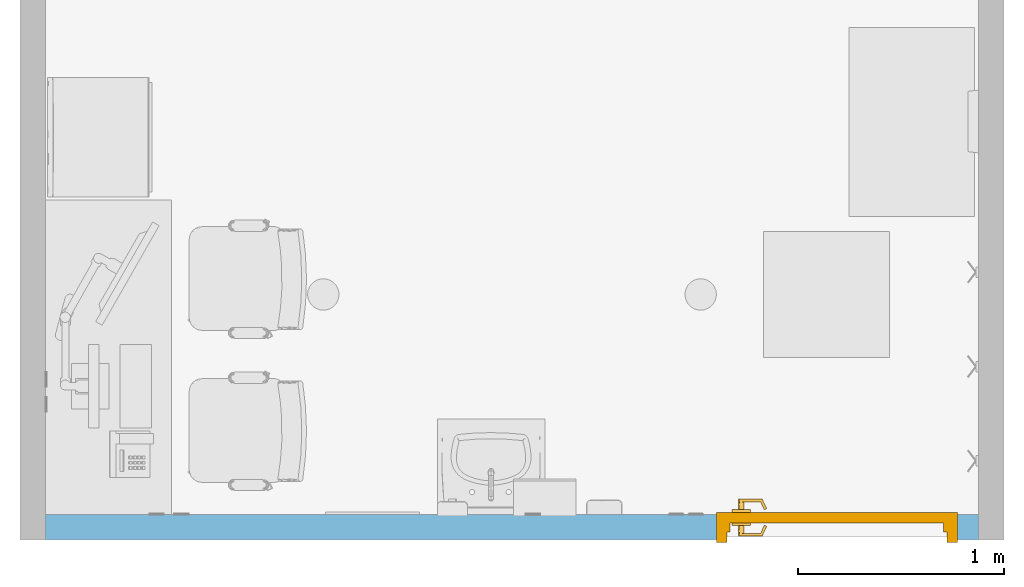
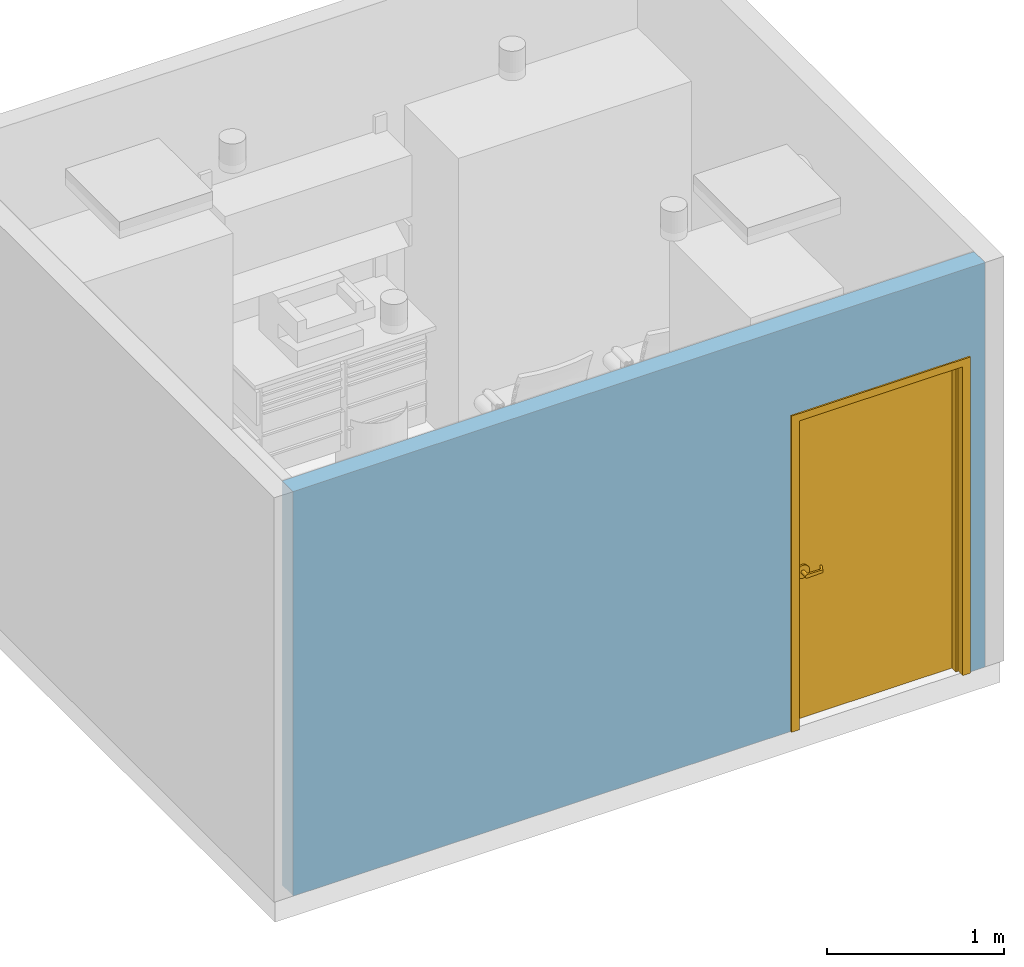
# One storey, part 2 of 15: 1 door, 1 opening, plus 1 element that does not belong to this part.
"""IFC2X3 building model written with IfcOpenShell, lengths in feet."""

import ifcopenshell
import ifcopenshell.guid

model = None  # the IFC model being written
_history = None  # IfcOwnerHistory: only IFC2X3 demands one
_inside = {}  # id of a spatial element -> (the spatial element, [elements in it])
_under = {}  # id of a project, library or spatial element -> (it, [spatial elements below it])
_declared = {}  # id of a project -> (the project, [libraries it declares])
_typed = {}  # id of a type object -> (the type object, [elements of that type])
_made_of = {}  # id of a material, layer set ... -> (it, [elements and type objects made of it])


def new_model(schema):
    """Start an empty IFC model of exactly this schema.

    Asked for "IFC4X3", IfcOpenShell would pick the latest addendum, in which some entities
    have other attributes; the version numbers below select the first issue.
    IFC2X3 requires an IfcOwnerHistory on every rooted entity: one is made here for all.
    """
    global model, _history
    if schema == "IFC4X3":
        model = ifcopenshell.file(schema_version=(4, 3, 0, 0))
    else:
        model = ifcopenshell.file(schema=schema)
    _inside.clear()
    _under.clear()
    _declared.clear()
    _typed.clear()
    _made_of.clear()
    _history = None
    if model.schema == "IFC2X3":
        org = make("IfcOrganization", Name="unknown")
        user = make(
            "IfcPersonAndOrganization",
            ThePerson=make("IfcPerson", FamilyName="unknown"),
            TheOrganization=org,
        )
        app = make(
            "IfcApplication",
            ApplicationDeveloper=org,
            Version="unknown",
            ApplicationFullName="unknown",
            ApplicationIdentifier="unknown",
        )
        _history = make(
            "IfcOwnerHistory",
            OwningUser=user,
            OwningApplication=app,
            ChangeAction="ADDED",
            CreationDate=0,
        )
    return model


def make(cls, **values):
    """One entity of the class cls with the attributes given. An attribute that is None is left unset."""
    return model.create_entity(
        cls, **{name: value for name, value in values.items() if value is not None}
    )


def entity(cls, *values):
    """Any entity or typed value of the class cls, its attributes in the order of the schema. None: left unset."""
    e = model.create_entity(cls)
    for i, value in enumerate(values):
        if value is not None:
            e[i] = value
    return e


def rooted(cls, **values):
    """An entity with a GlobalId (a new one), such as an element, a storey or a relation."""
    return make(cls, GlobalId=ifcopenshell.guid.new(), OwnerHistory=_history, **values)


def si_unit(unit_type, name, prefix=None):
    """IfcSIUnit, for example si_unit("LENGTHUNIT", "METRE", prefix="MILLI")."""
    return make("IfcSIUnit", UnitType=unit_type, Prefix=prefix, Name=name)


def converted_unit(unit_type, name, factor, base, dimensions=None, offset=None):
    """IfcConversionBasedUnit, such as the inch: factor (a typed value) times the base unit."""
    return make(
        "IfcConversionBasedUnit"
        if offset is None
        else "IfcConversionBasedUnitWithOffset",
        ConversionOffset=offset,
        Dimensions=None
        if dimensions is None
        else entity("IfcDimensionalExponents", *dimensions),
        UnitType=unit_type,
        Name=name,
        ConversionFactor=make(
            "IfcMeasureWithUnit", ValueComponent=factor, UnitComponent=base
        ),
    )


def derived_unit(unit_type, elements):
    """IfcDerivedUnit: a product of units, each with its exponent."""
    return make(
        "IfcDerivedUnit",
        Elements=[
            make("IfcDerivedUnitElement", Unit=unit, Exponent=power)
            for unit, power in elements
        ],
        UnitType=unit_type,
    )


def assignment(units):
    """IfcUnitAssignment: the units of a project."""
    return None if units is None else make("IfcUnitAssignment", Units=units)


def point(xyz):
    """IfcCartesianPoint."""
    return None if xyz is None else make("IfcCartesianPoint", Coordinates=xyz)


def direction(xyz):
    """IfcDirection."""
    return None if xyz is None else make("IfcDirection", DirectionRatios=xyz)


def frame(location, z_axis=None, x_axis=None):
    """IfcAxis2Placement3D, a coordinate frame: its origin and axes. An axis left out is left unset."""
    return make(
        "IfcAxis2Placement3D",
        Location=point(location),
        Axis=direction(z_axis),
        RefDirection=direction(x_axis),
    )


def frame_2d(location, x_axis=None):
    """IfcAxis2Placement2D, a coordinate frame in the plane: its origin and x axis."""
    return make(
        "IfcAxis2Placement2D", Location=point(location), RefDirection=direction(x_axis)
    )


def origin():
    """The frame at (0, 0, 0) with its axes left unset."""
    return frame((0.0, 0.0, 0.0))


def place(relative_to, where):
    """IfcLocalPlacement: puts the frame where relative to a parent placement (None: the world)."""
    return make(
        "IfcLocalPlacement", PlacementRelTo=relative_to, RelativePlacement=where
    )


def context(
    kind, dimensions, precision=None, world=None, true_north=None, identifier=None
):
    """IfcGeometricRepresentationContext, for example the 3D "Model" context."""
    return make(
        "IfcGeometricRepresentationContext",
        ContextIdentifier=identifier,
        ContextType=kind,
        CoordinateSpaceDimension=dimensions,
        Precision=precision,
        WorldCoordinateSystem=world,
        TrueNorth=true_north,
    )


def subcontext(parent, identifier, kind, view, scale=None):
    """IfcGeometricRepresentationSubContext, for example "Body" below "Model"."""
    return make(
        "IfcGeometricRepresentationSubContext",
        ContextIdentifier=identifier,
        ContextType=kind,
        ParentContext=parent,
        TargetScale=scale,
        TargetView=view,
    )


def project(units=None, contexts=None):
    """IfcProject with its units and contexts."""
    return rooted(
        "IfcProject",
        Name="project",
        RepresentationContexts=contexts,
        UnitsInContext=assignment(units),
    )


def spatial(cls, under=None, at=None, **own):
    """A site, building, storey or space (cls), placed at a placement, below another one or the project."""
    s = rooted(cls, ObjectPlacement=at, **own)
    if under is not None:
        _under.setdefault(under.id(), (under, []))[1].append(s)
    return s


def profile(cls, at=None, kind="AREA", **sizes):
    """A parametric profile (cls). Its sizes go by their IFC names, for example OverallWidth=200.0."""
    return make(cls, ProfileType=kind, Position=at, **sizes)


def rectangle(**sizes):
    """IfcRectangleProfileDef."""
    return profile("IfcRectangleProfileDef", **sizes)


def extrude(swept, where, along, depth):
    """IfcExtrudedAreaSolid: the profile swept, set in the frame where, extruded along a direction by depth."""
    return make(
        "IfcExtrudedAreaSolid",
        SweptArea=swept,
        Position=where,
        ExtrudedDirection=direction(along),
        Depth=depth,
    )


def faces_of(points, faces, orient=None, outer=None):
    """IfcFace entities. A face is a list of loops; a loop is a list of indices into points, from 0.

    orient and outer hold one flag for each loop. By default every Orientation is true, the
    first loop of a face is its IfcFaceOuterBound and the others are IfcFaceBound.
    """
    made = []
    for i, loops in enumerate(faces):
        bounds = []
        for j, loop in enumerate(loops):
            is_outer = j == 0 if outer is None else outer[i][j]
            bounds.append(
                make(
                    "IfcFaceOuterBound" if is_outer else "IfcFaceBound",
                    Bound=make("IfcPolyLoop", Polygon=[points[k] for k in loop]),
                    Orientation=True if orient is None else orient[i][j],
                )
            )
        made.append(make("IfcFace", Bounds=bounds))
    return made


def faceted_brep(points, faces, orient=None, outer=None, voids=None):
    """IfcFacetedBrep: a solid bounded by flat faces; with voids (closed shells), ...WithVoids."""
    shared = [point(p) for p in points]
    hull = make("IfcClosedShell", CfsFaces=faces_of(shared, faces, orient, outer))
    if voids is None:
        return make("IfcFacetedBrep", Outer=hull)
    return make(
        "IfcFacetedBrepWithVoids",
        Outer=hull,
        Voids=[
            make(cls, CfsFaces=faces_of(shared, fs, o, b)) for cls, fs, o, b in voids
        ],
    )


def shape(context_of_items, identifier, shape_type, items):
    """IfcShapeRepresentation: the items that make up one representation, for example the "Body"."""
    return make(
        "IfcShapeRepresentation",
        ContextOfItems=context_of_items,
        RepresentationIdentifier=identifier,
        RepresentationType=shape_type,
        Items=items,
    )


def source(mapping_origin, context_of_items, identifier, shape_type, items):
    """IfcRepresentationMap: a shape defined once, which mapped items show again and again."""
    return make(
        "IfcRepresentationMap",
        MappingOrigin=mapping_origin,
        MappedRepresentation=shape(context_of_items, identifier, shape_type, items),
    )


def transform(
    local_origin,
    x_axis=None,
    y_axis=None,
    z_axis=None,
    scale=None,
    scale2=None,
    scale3=None,
    uniform=True,
):
    """IfcCartesianTransformationOperator3D, or its non-uniform kind. x_axis, y_axis, z_axis: its Axis1, 2, 3."""
    if uniform:
        return make(
            "IfcCartesianTransformationOperator3D",
            Axis1=direction(x_axis),
            Axis2=direction(y_axis),
            LocalOrigin=point(local_origin),
            Scale=scale,
            Axis3=direction(z_axis),
        )
    return make(
        "IfcCartesianTransformationOperator3DnonUniform",
        Axis1=direction(x_axis),
        Axis2=direction(y_axis),
        LocalOrigin=point(local_origin),
        Scale=scale,
        Axis3=direction(z_axis),
        Scale2=scale2,
        Scale3=scale3,
    )


def mapped(mapping_source, mapping_target):
    """IfcMappedItem: shows the shape of a source again, moved by a transform."""
    return make(
        "IfcMappedItem", MappingSource=mapping_source, MappingTarget=mapping_target
    )


def material(Name=None, Category=None):
    """IfcMaterial."""
    return make("IfcMaterial", Name=Name, Category=Category)


def material_list(materials):
    """IfcMaterialList."""
    return make("IfcMaterialList", Materials=materials)


def layer(
    of_material, thickness, ventilated=None, Name=None, Category=None, Priority=None
):
    """IfcMaterialLayer: one layer of a wall or slab, of a material (None: an air gap)."""
    return make(
        "IfcMaterialLayer",
        Material=of_material,
        LayerThickness=thickness,
        IsVentilated=ventilated,
        Name=Name,
        Category=Category,
        Priority=Priority,
    )


def layer_set(layers, Name=None):
    """IfcMaterialLayerSet."""
    return make("IfcMaterialLayerSet", MaterialLayers=layers, LayerSetName=Name)


def layer_usage(for_layer_set, set_direction, sense, offset, extent=None):
    """IfcMaterialLayerSetUsage: how a layer set lies in its element."""
    return make(
        "IfcMaterialLayerSetUsage",
        ForLayerSet=for_layer_set,
        LayerSetDirection=set_direction,
        DirectionSense=sense,
        OffsetFromReferenceLine=offset,
        ReferenceExtent=extent,
    )


def made_of(thing, what):
    """Note that an element or type object is made of a material, layer set ...; save() writes the relation."""
    if what is not None:
        _made_of.setdefault(what.id(), (what, []))[1].append(thing)
    return thing


def type_object(cls, material=None, **own):
    """A type object (cls), such as IfcWallType, which elements share."""
    return made_of(rooted(cls, **own), material)


def type_shapes(of_type, sources):
    """Give a type object the sources (RepresentationMaps) that its elements show as mapped items."""
    of_type.RepresentationMaps = sources


def element(
    cls,
    number,
    at=None,
    inside=None,
    cuts=None,
    type_object=None,
    material=None,
    context=None,
    identifier="Body",
    shape_type=None,
    held_by="IfcProductDefinitionShape",
    body=None,
    shapes=None,
    **own,
):
    """One element of the class cls, such as IfcWall. Its Tag is "e" and its number.

    at: its placement. inside: the storey or other place that contains it. cuts: it is an
    opening in that element (IfcRelVoidsElement). A single representation is given by context,
    identifier, shape_type and body (its items); several are given by shapes. held_by: the class
    of the entity that holds the representations. save() writes the other relations.
    """
    e = rooted(cls, Tag="e%d" % number, ObjectPlacement=at, **own)
    if body is not None:
        shapes = [shape(context, identifier, shape_type, body)]
    if shapes is not None:
        e.Representation = make(held_by, Representations=shapes)
    if inside is not None:
        _inside.setdefault(inside.id(), (inside, []))[1].append(e)
    if cuts is not None:
        rooted(
            "IfcRelVoidsElement", RelatingBuildingElement=cuts, RelatedOpeningElement=e
        )
    if type_object is not None:
        _typed.setdefault(type_object.id(), (type_object, []))[1].append(e)
    return made_of(e, material)


def fill(opening, filler):
    """IfcRelFillsElement: the door or window that sits in an opening."""
    return rooted(
        "IfcRelFillsElement",
        RelatingOpeningElement=opening,
        RelatedBuildingElement=filler,
    )


def aggregate(whole, parts):
    """IfcRelAggregates: a whole, such as a stair, and the parts it consists of."""
    return rooted("IfcRelAggregates", RelatingObject=whole, RelatedObjects=parts)


def save(model, path):
    """Write the relations noted so far, then the file.

    IfcRelAggregates (storeys below a building ...), IfcRelContainedInSpatialStructure (elements
    in a storey), IfcRelDefinesByType, IfcRelAssociatesMaterial and IfcRelDeclares: one each for
    every whole, place, type object, material and project.
    """
    for whole, parts in _under.values():
        aggregate(whole, parts)
    for where, things in _inside.values():
        rooted(
            "IfcRelContainedInSpatialStructure",
            RelatedElements=things,
            RelatingStructure=where,
        )
    for kind, things in _typed.values():
        rooted("IfcRelDefinesByType", RelatedObjects=things, RelatingType=kind)
    for what, things in _made_of.values():
        rooted("IfcRelAssociatesMaterial", RelatedObjects=things, RelatingMaterial=what)
    for by, libraries in _declared.values():
        rooted("IfcRelDeclares", RelatingContext=by, RelatedDefinitions=libraries)
    model.write(path)


model = new_model("IFC2X3")

# Units and contexts
model_context = context("Model", 3, precision=0.0001, world=origin(), true_north=direction((6.12303176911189e-17, 1.0)))
body_context = subcontext(model_context, "Body", "Model", "MODEL_VIEW")
ifc_project = project(units=[converted_unit("LENGTHUNIT", "FOOT", entity("IfcRatioMeasure", 0.3048), si_unit("LENGTHUNIT", "METRE"), dimensions=[1, 0, 0, 0, 0, 0, 0]), converted_unit("AREAUNIT", "SQUARE FOOT", entity("IfcRatioMeasure", 0.09290304), si_unit("AREAUNIT", "SQUARE_METRE"), dimensions=[2, 0, 0, 0, 0, 0, 0]), converted_unit("VOLUMEUNIT", "CUBIC FOOT", entity("IfcRatioMeasure", 0.028316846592), si_unit("VOLUMEUNIT", "CUBIC_METRE"), dimensions=[3, 0, 0, 0, 0, 0, 0]), converted_unit("PLANEANGLEUNIT", "DEGREE", entity("IfcRatioMeasure", 0.0174532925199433), si_unit("PLANEANGLEUNIT", "RADIAN"), dimensions=[0, 0, 0, 0, 0, 0, 0]), si_unit("MASSUNIT", "GRAM", prefix="KILO"), derived_unit("MASSDENSITYUNIT", [(si_unit("MASSUNIT", "GRAM", prefix="KILO"), 1), (si_unit("LENGTHUNIT", "METRE"), -3)]), si_unit("TIMEUNIT", "SECOND"), si_unit("FREQUENCYUNIT", "HERTZ"), si_unit("THERMODYNAMICTEMPERATUREUNIT", "DEGREE_CELSIUS"), derived_unit("THERMALTRANSMITTANCEUNIT", [(si_unit("MASSUNIT", "GRAM", prefix="KILO"), 1), (si_unit("THERMODYNAMICTEMPERATUREUNIT", "KELVIN"), -1), (si_unit("TIMEUNIT", "SECOND"), -3)]), derived_unit("VOLUMETRICFLOWRATEUNIT", [(si_unit("LENGTHUNIT", "METRE"), 3), (si_unit("TIMEUNIT", "SECOND"), -1)]), si_unit("ELECTRICCURRENTUNIT", "AMPERE"), si_unit("ELECTRICVOLTAGEUNIT", "VOLT"), si_unit("POWERUNIT", "WATT"), si_unit("FORCEUNIT", "NEWTON"), si_unit("ILLUMINANCEUNIT", "LUX"), si_unit("LUMINOUSFLUXUNIT", "LUMEN"), si_unit("LUMINOUSINTENSITYUNIT", "CANDELA"), derived_unit("USERDEFINED", [(si_unit("MASSUNIT", "GRAM", prefix="KILO"), -1), (si_unit("LENGTHUNIT", "METRE"), -2), (si_unit("TIMEUNIT", "SECOND"), 3), (si_unit("LUMINOUSFLUXUNIT", "LUMEN"), 1)]), derived_unit("LINEARVELOCITYUNIT", [(si_unit("LENGTHUNIT", "METRE"), 1), (si_unit("TIMEUNIT", "SECOND"), -1)]), si_unit("PRESSUREUNIT", "PASCAL"), derived_unit("USERDEFINED", [(si_unit("LENGTHUNIT", "METRE"), -2), (si_unit("MASSUNIT", "GRAM", prefix="KILO"), 1), (si_unit("TIMEUNIT", "SECOND"), -2)])], contexts=[model_context])

# Site, building, storey
site_placement = place(None, origin())
site = spatial("IfcSite", under=ifc_project, at=site_placement, Name="Default", CompositionType="ELEMENT")
building_placement = place(site_placement, origin())
building = spatial("IfcBuilding", under=site, at=building_placement, Name="EYE CLINIC:  OPTHALMOLOGY AND OPTOMETRY SERVICES (Ch. 233)", CompositionType="ELEMENT")
storey_placement = place(building_placement, origin())
storey = spatial("IfcBuildingStorey", under=building, at=storey_placement, Name="DATUM", CompositionType="ELEMENT", Elevation=0.0)

# Wall, opening, door
ifc_material_1 = material(Name="Default Wall")
ifc_layer = layer(ifc_material_1, 0.40625)
ifc_layer_set = layer_set([ifc_layer], Name="Basic Wall:Interior - 4 7/8\"")
ifc_layer_usage = layer_usage(ifc_layer_set, "AXIS2", "NEGATIVE", 0.203125)
wall_type = type_object("IfcWallType", Name="Basic Wall:Interior - 4 7/8\"", PredefinedType="STANDARD", material=ifc_layer_set)
wall_placement = place(storey_placement, frame((349.639769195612, -1.3954993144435, 0.0), z_axis=(0.0, 0.0, 1.0), x_axis=(-1.0, 0.0, 0.0)))
wall = element("IfcWallStandardCase", 1, at=wall_placement, inside=storey, type_object=wall_type, material=ifc_layer_usage, Name="Basic Wall:Interior - 4 7/8\"", ObjectType="Basic Wall:Interior - 4 7/8\"", context=body_context, shape_type="SweptSolid", body=[
    extrude(rectangle(XDim=14.8333333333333, YDim=0.40625, at=frame_2d((7.41666666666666, -4.16333634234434e-17), x_axis=(-1.0, 0.0))), origin(), (0.0, 0.0, 1.0), 9.16666666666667),
])
opening_placement = place(wall_placement, frame((4.16666666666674, 0.203124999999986, 0.0)))
opening = element("IfcOpeningElement", 2, at=opening_placement, cuts=wall, Name="Single - Flush:42\" x 84\":1", ObjectType="Opening", context=body_context, shape_type="SweptSolid", body=[
    extrude(rectangle(XDim=3.83333333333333, YDim=7.16666666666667, at=frame_2d((3.58333333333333, 1.91666666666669), x_axis=(0.0, 1.0))), frame((0.0, 0.0, 0.0), z_axis=(0.0, -1.0, 0.0), x_axis=(0.0, 0.0, 1.0)), (0.0, 0.0, 1.0), 0.40625),
])
ifc_material_2 = material(Name="Door - Hardware")
ifc_material_3 = material(Name="Door - Wood Panel")
ifc_material_4 = material(Name="Door - H.M. Frame")
ifc_material_list_1 = material_list([ifc_material_2, ifc_material_3, ifc_material_4])
ifc_material_list_2 = material_list([ifc_material_2, ifc_material_3, ifc_material_4])
door_style = type_object("IfcDoorStyle", Name="42\" x 84\"", ConstructionType="NOTDEFINED", OperationType="NOTDEFINED", ParameterTakesPrecedence=False, Sizeable=False, material=ifc_material_list_2)
shared_shape = source(origin(), body_context, "Body", "Brep", [
    faceted_brep([(0.761840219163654, 0.236368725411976, 3.3541666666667), (0.761840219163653, 0.236368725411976, 3.31250000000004), (0.709012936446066, 0.123080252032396, 3.30208333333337), (0.702622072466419, 0.109375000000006, 3.30208333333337), (0.702622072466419, 0.109375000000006, 3.36458333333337), (0.709012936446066, 0.123080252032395, 3.36458333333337), (0.799603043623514, 0.218759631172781, 3.3541666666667), (0.746775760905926, 0.1054711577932, 3.36458333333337), (0.729166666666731, 0.0677083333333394, 3.36458333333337), (0.72916666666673, 0.0677083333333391, 3.30208333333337), (0.746775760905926, 0.1054711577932, 3.30208333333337), (0.799603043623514, 0.218759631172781, 3.31250000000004), (0.72916666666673, 0.109375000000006, 3.30208333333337), (0.729166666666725, 0.109375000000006, 3.36458333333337), (0.397137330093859, 0.0677083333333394, 3.29168707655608), (0.397137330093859, 0.0677083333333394, 3.37497959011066), (0.38693671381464, 0.0677083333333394, 3.37403912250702), (0.377273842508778, 0.0677083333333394, 3.37063824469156), (0.368732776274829, 0.0677083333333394, 3.36498251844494), (0.361829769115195, 0.0677083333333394, 3.35741379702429), (0.356982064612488, 0.0677083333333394, 3.34838956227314), (0.354482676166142, 0.0677083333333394, 3.33845527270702), (0.354482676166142, 0.0677083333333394, 3.32821139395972), (0.356982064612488, 0.0677083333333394, 3.31827710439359), (0.361829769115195, 0.0677083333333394, 3.30925286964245), (0.368732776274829, 0.0677083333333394, 3.3016841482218), (0.377273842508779, 0.0677083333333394, 3.29602842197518), (0.38693671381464, 0.0677083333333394, 3.29262754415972), (0.397137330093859, 0.109375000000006, 3.29168707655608), (0.407663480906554, 0.109375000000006, 3.29338137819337), (0.417415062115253, 0.109375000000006, 3.29769150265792), (0.425753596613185, 0.109375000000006, 3.30433524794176), (0.432133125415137, 0.109375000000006, 3.31287762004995), (0.436135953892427, 0.109375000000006, 3.32275931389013), (0.437500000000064, 0.109375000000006, 3.33333333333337), (0.436135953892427, 0.109375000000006, 3.34390735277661), (0.432133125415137, 0.109375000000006, 3.35378904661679), (0.425753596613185, 0.109375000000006, 3.36233141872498), (0.417415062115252, 0.109375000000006, 3.36897516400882), (0.407663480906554, 0.109375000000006, 3.37328528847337), (0.397137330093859, 0.109375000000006, 3.37497959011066), (0.387651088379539, 0.109375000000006, 3.29247795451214), (0.378594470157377, 0.109375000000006, 3.2954000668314), (0.363605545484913, 0.109375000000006, 3.30692347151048), (0.370437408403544, 0.109375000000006, 3.30030065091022), (0.358454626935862, 0.109375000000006, 3.31492291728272), (0.355252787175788, 0.109375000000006, 3.32388185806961), (0.35416666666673, 0.109375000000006, 3.33333333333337), (0.355252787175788, 0.109375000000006, 3.34278480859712), (0.358454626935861, 0.109375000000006, 3.35174374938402), (0.370437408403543, 0.109375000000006, 3.36636601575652), (0.363605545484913, 0.109375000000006, 3.35974319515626), (0.378594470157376, 0.109375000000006, 3.37126659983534), (0.387651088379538, 0.109375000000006, 3.3741887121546), (0.35416666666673, 0.234375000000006, 3.33333333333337), (0.355586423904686, 0.234375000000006, 3.34411746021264), (0.359748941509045, 0.234375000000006, 3.3541666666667), (0.375000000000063, 0.234375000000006, 3.36941772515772), (0.366370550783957, 0.234375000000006, 3.36279611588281), (0.385049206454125, 0.234375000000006, 3.37358024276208), (0.395833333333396, 0.234375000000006, 3.37500000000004), (0.406617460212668, 0.234375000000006, 3.37358024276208), (0.41666666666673, 0.234375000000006, 3.36941772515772), (0.431917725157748, 0.234375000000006, 3.3541666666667), (0.425296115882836, 0.234375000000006, 3.36279611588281), (0.436080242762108, 0.234375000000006, 3.34411746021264), (0.437500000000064, 0.234375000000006, 3.33333333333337), (0.436080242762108, 0.234375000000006, 3.3225492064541), (0.431917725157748, 0.234375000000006, 3.31250000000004), (0.41666666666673, 0.234375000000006, 3.29724894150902), (0.425296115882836, 0.234375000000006, 3.30387055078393), (0.406617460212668, 0.234375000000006, 3.29308642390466), (0.395833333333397, 0.234375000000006, 3.2916666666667), (0.385049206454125, 0.234375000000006, 3.29308642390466), (0.375000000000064, 0.234375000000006, 3.29724894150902), (0.359748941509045, 0.234375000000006, 3.31250000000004), (0.366370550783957, 0.234375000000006, 3.30387055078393), (0.355586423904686, 0.234375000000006, 3.3225492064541), (0.468750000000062, 0.234375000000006, 3.4596287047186), (0.498953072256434, 0.234375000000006, 3.43645307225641), (0.433577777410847, 0.234375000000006, 3.47419751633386), (0.395833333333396, 0.234375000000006, 3.4791666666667), (0.358088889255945, 0.234375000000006, 3.47419751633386), (0.322916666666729, 0.234375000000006, 3.4596287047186), (0.292713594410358, 0.234375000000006, 3.43645307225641), (0.269537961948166, 0.234375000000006, 3.40625000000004), (0.254969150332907, 0.234375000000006, 3.37107777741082), (0.250000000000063, 0.234375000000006, 3.33333333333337), (0.254969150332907, 0.234375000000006, 3.29558888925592), (0.269537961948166, 0.234375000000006, 3.2604166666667), (0.292713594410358, 0.234375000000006, 3.23021359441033), (0.32291666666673, 0.234375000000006, 3.20703796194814), (0.358088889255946, 0.234375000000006, 3.19246915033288), (0.395833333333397, 0.234375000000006, 3.18750000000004), (0.433577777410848, 0.234375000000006, 3.19246915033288), (0.468750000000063, 0.234375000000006, 3.20703796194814), (0.498953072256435, 0.234375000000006, 3.23021359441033), (0.522128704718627, 0.234375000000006, 3.2604166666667), (0.536697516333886, 0.234375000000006, 3.29558888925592), (0.54166666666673, 0.234375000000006, 3.33333333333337), (0.536697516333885, 0.234375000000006, 3.37107777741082), (0.522128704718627, 0.234375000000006, 3.40625000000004), (0.433577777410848, 0.276041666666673, 3.19246915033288), (0.395833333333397, 0.276041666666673, 3.18750000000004), (0.358088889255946, 0.276041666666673, 3.19246915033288), (0.32291666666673, 0.276041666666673, 3.20703796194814), (0.292713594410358, 0.276041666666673, 3.23021359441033), (0.269537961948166, 0.276041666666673, 3.2604166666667), (0.254969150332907, 0.276041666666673, 3.29558888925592), (0.250000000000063, 0.276041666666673, 3.33333333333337), (0.254969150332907, 0.276041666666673, 3.37107777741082), (0.269537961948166, 0.276041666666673, 3.40625000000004), (0.292713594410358, 0.276041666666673, 3.43645307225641), (0.322916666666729, 0.276041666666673, 3.4596287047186), (0.358088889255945, 0.276041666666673, 3.47419751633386), (0.395833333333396, 0.276041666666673, 3.4791666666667), (0.433577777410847, 0.276041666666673, 3.47419751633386), (0.468750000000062, 0.276041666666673, 3.4596287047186), (0.498953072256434, 0.276041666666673, 3.43645307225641), (0.522128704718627, 0.276041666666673, 3.40625000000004), (0.536697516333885, 0.276041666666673, 3.37107777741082), (0.54166666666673, 0.276041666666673, 3.33333333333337), (0.536697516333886, 0.276041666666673, 3.29558888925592), (0.522128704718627, 0.276041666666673, 3.2604166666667), (0.498953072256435, 0.276041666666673, 3.23021359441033), (0.468750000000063, 0.276041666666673, 3.20703796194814)], [[[0, 1, 2, 3, 4, 5]], [[6, 7, 8, 9, 10, 11]], [[12, 3, 2, 10, 9]], [[11, 10, 2, 1]], [[11, 1, 0, 6]], [[7, 6, 0, 5]], [[13, 8, 7, 5, 4]], [[14, 9, 8, 15, 16, 17, 18, 19, 20, 21, 22, 23, 24, 25, 26, 27]], [[3, 12, 28, 29, 30, 31, 32, 33, 34, 35, 36, 37, 38, 39, 40, 13, 4]], [[28, 12, 9, 14]], [[28, 14, 41]], [[41, 27, 42]], [[43, 44, 25]], [[24, 45, 43]], [[26, 44, 42]], [[45, 23, 46]], [[27, 26, 42]], [[41, 14, 27]], [[45, 24, 23]], [[24, 43, 25]], [[44, 26, 25]], [[46, 23, 22]], [[22, 47, 46]], [[47, 21, 48]], [[48, 20, 49]], [[50, 51, 18]], [[17, 52, 50]], [[19, 51, 49]], [[52, 16, 53]], [[51, 19, 18]], [[49, 20, 19]], [[48, 21, 20]], [[53, 16, 15]], [[16, 52, 17]], [[50, 18, 17]], [[40, 53, 15]], [[22, 21, 47]], [[40, 15, 8, 13]], [[54, 48, 55]], [[55, 49, 56]], [[57, 58, 50]], [[51, 58, 56]], [[59, 57, 52]], [[48, 49, 55]], [[54, 47, 48]], [[57, 50, 52]], [[50, 58, 51]], [[56, 49, 51]], [[59, 52, 53]], [[53, 60, 59]], [[60, 40, 61]], [[61, 39, 62]], [[63, 64, 37]], [[36, 65, 63]], [[38, 64, 62]], [[65, 35, 66]], [[39, 38, 62]], [[61, 40, 39]], [[65, 36, 35]], [[36, 63, 37]], [[64, 38, 37]], [[66, 35, 34]], [[53, 40, 60]], [[66, 33, 67]], [[67, 32, 68]], [[69, 70, 30]], [[31, 70, 68]], [[71, 69, 29]], [[33, 32, 67]], [[66, 34, 33]], [[69, 30, 29]], [[30, 70, 31]], [[68, 32, 31]], [[71, 29, 28]], [[28, 72, 71]], [[72, 41, 73]], [[73, 42, 74]], [[75, 76, 43]], [[45, 77, 75]], [[44, 76, 74]], [[77, 46, 54]], [[42, 44, 74]], [[73, 41, 42]], [[77, 45, 46]], [[45, 75, 43]], [[76, 44, 43]], [[54, 46, 47]], [[28, 41, 72]], [[78, 61, 62]], [[78, 62, 79]], [[78, 80, 61]], [[60, 61, 80]], [[81, 60, 80]], [[60, 81, 59]], [[82, 59, 81]], [[82, 57, 59]], [[57, 82, 83]], [[57, 83, 58]], [[84, 58, 83]], [[58, 84, 56]], [[56, 84, 85]], [[56, 85, 55]], [[55, 85, 86]], [[54, 55, 86]], [[87, 54, 86]], [[77, 54, 87]], [[88, 77, 87]], [[75, 77, 88]], [[89, 75, 88]], [[75, 89, 90]], [[76, 75, 90]], [[90, 91, 76]], [[91, 74, 76]], [[74, 91, 92]], [[74, 92, 73]], [[92, 93, 73]], [[72, 73, 93]], [[93, 94, 72]], [[72, 94, 71]], [[95, 71, 94]], [[71, 95, 69]], [[69, 95, 96]], [[70, 69, 96]], [[97, 70, 96]], [[68, 70, 97]], [[98, 68, 97]], [[68, 98, 67]], [[67, 98, 99]], [[99, 66, 67]], [[99, 100, 66]], [[65, 66, 100]], [[101, 65, 100]], [[64, 101, 79]], [[101, 63, 65]], [[63, 101, 64]], [[64, 79, 62]], [[102, 103, 104, 105, 106, 107, 108, 109, 110, 111, 112, 113, 114, 115, 116, 117, 118, 119, 120, 121, 122, 123, 124, 125]], [[109, 87, 86, 110]], [[110, 86, 85, 111]], [[113, 112, 84, 83]], [[84, 112, 111, 85]], [[114, 113, 83, 82]], [[114, 82, 81, 115]], [[115, 81, 80, 116]], [[116, 80, 78, 117]], [[119, 118, 79, 101]], [[79, 118, 117, 78]], [[120, 119, 101, 100]], [[120, 100, 99, 121]], [[121, 99, 98, 122]], [[122, 98, 97, 123]], [[125, 124, 96, 95]], [[96, 124, 123, 97]], [[102, 125, 95, 94]], [[102, 94, 93, 103]], [[103, 93, 92, 104]], [[104, 92, 91, 105]], [[107, 106, 90, 89]], [[90, 106, 105, 91]], [[108, 107, 89, 88]], [[108, 88, 87, 109]]]),
    faceted_brep([(0.761840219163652, 0.482381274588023, 3.31249999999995), (0.761840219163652, 0.482381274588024, 3.35416666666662), (0.709012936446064, 0.595669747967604, 3.36458333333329), (0.702622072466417, 0.609374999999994, 3.36458333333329), (0.702622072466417, 0.609374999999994, 3.30208333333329), (0.709012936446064, 0.595669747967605, 3.30208333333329), (0.799603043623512, 0.499990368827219, 3.31249999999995), (0.746775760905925, 0.6132788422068, 3.30208333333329), (0.729166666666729, 0.651041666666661, 3.30208333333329), (0.729166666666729, 0.651041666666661, 3.36458333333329), (0.746775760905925, 0.6132788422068, 3.36458333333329), (0.799603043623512, 0.499990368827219, 3.35416666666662), (0.729166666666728, 0.609374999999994, 3.36458333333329), (0.729166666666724, 0.609374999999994, 3.30208333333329), (0.397137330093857, 0.651041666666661, 3.37497959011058), (0.397137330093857, 0.651041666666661, 3.291687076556), (0.386936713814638, 0.651041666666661, 3.29262754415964), (0.377273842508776, 0.651041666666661, 3.2960284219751), (0.368732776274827, 0.651041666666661, 3.30168414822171), (0.361829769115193, 0.651041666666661, 3.30925286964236), (0.356982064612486, 0.651041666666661, 3.31827710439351), (0.35448267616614, 0.651041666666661, 3.32821139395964), (0.35448267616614, 0.651041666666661, 3.33845527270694), (0.356982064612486, 0.651041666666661, 3.34838956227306), (0.361829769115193, 0.651041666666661, 3.35741379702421), (0.368732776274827, 0.651041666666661, 3.36498251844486), (0.377273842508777, 0.651041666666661, 3.37063824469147), (0.386936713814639, 0.651041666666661, 3.37403912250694), (0.397137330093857, 0.609374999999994, 3.37497959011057), (0.407663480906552, 0.609374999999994, 3.37328528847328), (0.417415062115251, 0.609374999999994, 3.36897516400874), (0.425753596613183, 0.609374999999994, 3.3623314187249), (0.432133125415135, 0.609374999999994, 3.35378904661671), (0.436135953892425, 0.609374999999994, 3.34390735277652), (0.437500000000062, 0.609374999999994, 3.33333333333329), (0.436135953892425, 0.609374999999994, 3.32275931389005), (0.432133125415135, 0.609374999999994, 3.31287762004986), (0.425753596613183, 0.609374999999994, 3.30433524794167), (0.417415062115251, 0.609374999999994, 3.29769150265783), (0.407663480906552, 0.609374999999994, 3.29338137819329), (0.397137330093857, 0.609374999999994, 3.291687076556), (0.387651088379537, 0.609374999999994, 3.37418871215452), (0.378594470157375, 0.609374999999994, 3.37126659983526), (0.363605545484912, 0.609374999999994, 3.35974319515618), (0.370437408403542, 0.609374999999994, 3.36636601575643), (0.35845462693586, 0.609374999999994, 3.35174374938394), (0.355252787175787, 0.609374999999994, 3.34278480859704), (0.354166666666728, 0.609374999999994, 3.33333333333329), (0.355252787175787, 0.609374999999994, 3.32388185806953), (0.35845462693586, 0.609374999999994, 3.31492291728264), (0.370437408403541, 0.609374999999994, 3.30030065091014), (0.363605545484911, 0.609374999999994, 3.30692347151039), (0.378594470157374, 0.609374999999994, 3.29540006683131), (0.387651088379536, 0.609374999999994, 3.29247795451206), (0.354166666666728, 0.484374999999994, 3.33333333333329), (0.355586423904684, 0.484374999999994, 3.32254920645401), (0.359748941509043, 0.484374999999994, 3.31249999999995), (0.375000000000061, 0.484374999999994, 3.29724894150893), (0.366370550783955, 0.484374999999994, 3.30387055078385), (0.385049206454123, 0.484374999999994, 3.29308642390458), (0.395833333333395, 0.484374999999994, 3.29166666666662), (0.406617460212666, 0.484374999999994, 3.29308642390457), (0.416666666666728, 0.484374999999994, 3.29724894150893), (0.431917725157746, 0.484374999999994, 3.31249999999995), (0.425296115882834, 0.484374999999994, 3.30387055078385), (0.436080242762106, 0.484374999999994, 3.32254920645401), (0.437500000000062, 0.484374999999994, 3.33333333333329), (0.436080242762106, 0.484374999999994, 3.34411746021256), (0.431917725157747, 0.484374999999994, 3.35416666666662), (0.416666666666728, 0.484374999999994, 3.36941772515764), (0.425296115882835, 0.484374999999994, 3.36279611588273), (0.406617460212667, 0.484374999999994, 3.373580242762), (0.395833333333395, 0.484374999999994, 3.37499999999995), (0.385049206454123, 0.484374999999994, 3.373580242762), (0.375000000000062, 0.484374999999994, 3.36941772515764), (0.359748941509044, 0.484374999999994, 3.35416666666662), (0.366370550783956, 0.484374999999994, 3.36279611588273), (0.355586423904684, 0.484374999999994, 3.34411746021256), (0.468750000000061, 0.484374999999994, 3.20703796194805), (0.498953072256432, 0.484374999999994, 3.23021359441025), (0.433577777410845, 0.484374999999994, 3.1924691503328), (0.395833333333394, 0.484374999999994, 3.18749999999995), (0.358088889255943, 0.484374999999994, 3.1924691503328), (0.322916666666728, 0.484374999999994, 3.20703796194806), (0.292713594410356, 0.484374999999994, 3.23021359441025), (0.269537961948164, 0.484374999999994, 3.26041666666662), (0.254969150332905, 0.484374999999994, 3.29558888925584), (0.250000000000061, 0.484374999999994, 3.33333333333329), (0.254969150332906, 0.484374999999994, 3.37107777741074), (0.269537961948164, 0.484374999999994, 3.40624999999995), (0.292713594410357, 0.484374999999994, 3.43645307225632), (0.322916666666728, 0.484374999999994, 3.45962870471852), (0.358088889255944, 0.484374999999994, 3.47419751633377), (0.395833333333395, 0.484374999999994, 3.47916666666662), (0.433577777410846, 0.484374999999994, 3.47419751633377), (0.468750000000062, 0.484374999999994, 3.45962870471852), (0.498953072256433, 0.484374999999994, 3.43645307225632), (0.522128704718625, 0.484374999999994, 3.40624999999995), (0.536697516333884, 0.484374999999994, 3.37107777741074), (0.541666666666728, 0.484374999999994, 3.33333333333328), (0.536697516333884, 0.484374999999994, 3.29558888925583), (0.522128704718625, 0.484374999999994, 3.26041666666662), (0.433577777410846, 0.442708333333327, 3.47419751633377), (0.395833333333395, 0.442708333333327, 3.47916666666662), (0.358088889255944, 0.442708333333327, 3.47419751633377), (0.322916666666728, 0.442708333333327, 3.45962870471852), (0.292713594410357, 0.442708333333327, 3.43645307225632), (0.269537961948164, 0.442708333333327, 3.40624999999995), (0.254969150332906, 0.442708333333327, 3.37107777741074), (0.250000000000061, 0.442708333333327, 3.33333333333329), (0.254969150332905, 0.442708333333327, 3.29558888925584), (0.269537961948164, 0.442708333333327, 3.26041666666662), (0.292713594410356, 0.442708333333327, 3.23021359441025), (0.322916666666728, 0.442708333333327, 3.20703796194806), (0.358088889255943, 0.442708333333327, 3.1924691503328), (0.395833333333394, 0.442708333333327, 3.18749999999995), (0.433577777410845, 0.442708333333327, 3.1924691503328), (0.468750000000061, 0.442708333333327, 3.20703796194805), (0.498953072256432, 0.442708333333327, 3.23021359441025), (0.522128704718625, 0.442708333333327, 3.26041666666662), (0.536697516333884, 0.442708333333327, 3.29558888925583), (0.541666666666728, 0.442708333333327, 3.33333333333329), (0.536697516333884, 0.442708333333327, 3.37107777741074), (0.522128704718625, 0.442708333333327, 3.40624999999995), (0.498953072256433, 0.442708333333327, 3.43645307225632), (0.468750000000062, 0.442708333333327, 3.45962870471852)], [[[0, 1, 2, 3, 4, 5]], [[6, 7, 8, 9, 10, 11]], [[12, 3, 2, 10, 9]], [[11, 10, 2, 1]], [[11, 1, 0, 6]], [[7, 6, 0, 5]], [[13, 8, 7, 5, 4]], [[14, 9, 8, 15, 16, 17, 18, 19, 20, 21, 22, 23, 24, 25, 26, 27]], [[3, 12, 28, 29, 30, 31, 32, 33, 34, 35, 36, 37, 38, 39, 40, 13, 4]], [[28, 12, 9, 14]], [[28, 14, 41]], [[41, 27, 42]], [[43, 44, 25]], [[24, 45, 43]], [[26, 44, 42]], [[45, 23, 46]], [[27, 26, 42]], [[41, 14, 27]], [[45, 24, 23]], [[24, 43, 25]], [[44, 26, 25]], [[46, 23, 22]], [[22, 47, 46]], [[47, 21, 48]], [[48, 20, 49]], [[50, 51, 18]], [[17, 52, 50]], [[19, 51, 49]], [[52, 16, 53]], [[51, 19, 18]], [[49, 20, 19]], [[48, 21, 20]], [[53, 16, 15]], [[16, 52, 17]], [[50, 18, 17]], [[40, 53, 15]], [[22, 21, 47]], [[40, 15, 8, 13]], [[54, 48, 55]], [[55, 49, 56]], [[57, 58, 50]], [[51, 58, 56]], [[59, 57, 52]], [[48, 49, 55]], [[54, 47, 48]], [[57, 50, 52]], [[50, 58, 51]], [[56, 49, 51]], [[59, 52, 53]], [[53, 60, 59]], [[60, 40, 61]], [[61, 39, 62]], [[63, 64, 37]], [[36, 65, 63]], [[38, 64, 62]], [[65, 35, 66]], [[39, 38, 62]], [[61, 40, 39]], [[65, 36, 35]], [[36, 63, 37]], [[64, 38, 37]], [[66, 35, 34]], [[53, 40, 60]], [[66, 33, 67]], [[67, 32, 68]], [[69, 70, 30]], [[31, 70, 68]], [[71, 69, 29]], [[33, 32, 67]], [[66, 34, 33]], [[69, 30, 29]], [[30, 70, 31]], [[68, 32, 31]], [[71, 29, 28]], [[28, 72, 71]], [[72, 41, 73]], [[73, 42, 74]], [[75, 76, 43]], [[45, 77, 75]], [[44, 76, 74]], [[77, 46, 54]], [[42, 44, 74]], [[73, 41, 42]], [[77, 45, 46]], [[45, 75, 43]], [[76, 44, 43]], [[54, 46, 47]], [[28, 41, 72]], [[78, 61, 62]], [[78, 62, 79]], [[78, 80, 61]], [[60, 61, 80]], [[81, 60, 80]], [[60, 81, 59]], [[82, 59, 81]], [[82, 57, 59]], [[57, 82, 83]], [[57, 83, 58]], [[84, 58, 83]], [[58, 84, 56]], [[56, 84, 85]], [[56, 85, 55]], [[55, 85, 86]], [[54, 55, 86]], [[87, 54, 86]], [[77, 54, 87]], [[88, 77, 87]], [[75, 77, 88]], [[89, 75, 88]], [[75, 89, 90]], [[76, 75, 90]], [[90, 91, 76]], [[91, 74, 76]], [[74, 91, 92]], [[74, 92, 73]], [[92, 93, 73]], [[72, 73, 93]], [[93, 94, 72]], [[72, 94, 71]], [[95, 71, 94]], [[71, 95, 69]], [[69, 95, 96]], [[70, 69, 96]], [[97, 70, 96]], [[68, 70, 97]], [[98, 68, 97]], [[68, 98, 67]], [[67, 98, 99]], [[99, 66, 67]], [[99, 100, 66]], [[65, 66, 100]], [[101, 65, 100]], [[64, 101, 79]], [[101, 63, 65]], [[63, 101, 64]], [[64, 79, 62]], [[102, 103, 104, 105, 106, 107, 108, 109, 110, 111, 112, 113, 114, 115, 116, 117, 118, 119, 120, 121, 122, 123, 124, 125]], [[109, 87, 86, 110]], [[110, 86, 85, 111]], [[113, 112, 84, 83]], [[84, 112, 111, 85]], [[114, 113, 83, 82]], [[114, 82, 81, 115]], [[115, 81, 80, 116]], [[116, 80, 78, 117]], [[119, 118, 79, 101]], [[79, 118, 117, 78]], [[120, 119, 101, 100]], [[120, 100, 99, 121]], [[121, 99, 98, 122]], [[122, 98, 97, 123]], [[125, 124, 96, 95]], [[96, 124, 123, 97]], [[102, 125, 95, 94]], [[102, 94, 93, 103]], [[103, 93, 92, 104]], [[104, 92, 91, 105]], [[107, 106, 90, 89]], [[90, 106, 105, 91]], [[108, 107, 89, 88]], [[108, 88, 87, 109]]]),
    faceted_brep([(3.66666666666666, 0.442708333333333, 7.0), (3.66666666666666, 0.442708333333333, 0.0), (0.166666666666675, 0.442708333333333, 0.0), (0.166666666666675, 0.442708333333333, 7.0), (3.66666666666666, 0.276041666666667, 7.0), (0.166666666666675, 0.276041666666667, 7.0), (0.166666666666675, 0.276041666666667, 0.0), (3.66666666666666, 0.276041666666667, 0.0)], [[[0, 1, 2, 3]], [[4, 5, 6, 7]], [[3, 5, 4, 0]], [[2, 6, 5, 3]], [[1, 7, 6, 2]], [[0, 4, 7, 1]]]),
    faceted_brep([(3.66666666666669, 0.442708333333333, 0.0), (3.83333333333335, 0.442708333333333, 0.0), (3.83333333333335, -0.0364583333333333, 0.0), (3.66666666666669, -0.0364583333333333, 0.0), (3.66666666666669, 0.130208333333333, 0.0), (3.61458333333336, 0.130208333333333, 0.0), (3.61458333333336, 0.276041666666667, 0.0), (3.66666666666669, 0.276041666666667, 0.0), (3.66666666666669, 0.276041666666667, 7.0), (3.66666666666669, 0.442708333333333, 7.0), (3.61458333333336, 0.276041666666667, 6.94791666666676), (0.218749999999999, 0.276041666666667, 6.94791666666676), (0.218749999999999, 0.276041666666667, 0.0), (0.166666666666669, 0.276041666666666, 0.0), (0.166666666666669, 0.276041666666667, 7.0), (3.61458333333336, 0.130208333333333, 6.94791666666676), (3.66666666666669, 0.130208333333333, 7.0), (0.166666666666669, 0.130208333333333, 7.0), (0.166666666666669, 0.130208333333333, 0.0), (0.218749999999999, 0.130208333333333, 0.0), (0.218749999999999, 0.130208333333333, 6.94791666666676), (3.66666666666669, -0.0364583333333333, 7.0), (3.83333333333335, -0.0364583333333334, 7.16666666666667), (0.0, -0.0364583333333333, 7.16666666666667), (0.0, -0.0364583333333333, 0.0), (0.166666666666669, -0.0364583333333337, 0.0), (0.166666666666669, -0.0364583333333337, 7.0), (3.83333333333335, 0.442708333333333, 7.16666666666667), (0.166666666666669, 0.442708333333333, 7.0), (0.166666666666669, 0.442708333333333, 0.0), (0.0, 0.442708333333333, 0.0), (0.0, 0.442708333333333, 7.16666666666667)], [[[0, 1, 2, 3, 4, 5, 6, 7]], [[7, 8, 9, 0]], [[6, 10, 11, 12, 13, 14, 8, 7]], [[5, 15, 10, 6]], [[4, 16, 17, 18, 19, 20, 15, 5]], [[3, 21, 16, 4]], [[2, 22, 23, 24, 25, 26, 21, 3]], [[1, 27, 22, 2]], [[0, 9, 28, 29, 30, 31, 27, 1]], [[29, 28, 14, 13]], [[29, 13, 12, 19, 18, 25, 24, 30]], [[12, 11, 20, 19]], [[17, 26, 25, 18]], [[30, 24, 23, 31]], [[14, 28, 9, 8]], [[15, 20, 11, 10]], [[21, 26, 17, 16]], [[23, 22, 27, 31]]]),
])
type_shapes(door_style, [shared_shape])
door_placement = place(opening_placement, frame((0.0, 0.0, 0.0), z_axis=(0.0, 0.0, 1.0), x_axis=(-1.0, 0.0, 0.0)))
door = element("IfcDoor", 3, at=door_placement, inside=storey, type_object=door_style, material=ifc_material_list_1, Name="Single - Flush:42\" x 84\"", ObjectType="42\" x 84\"", OverallHeight=7.16666666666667, OverallWidth=3.83333333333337, context=body_context, shape_type="MappedRepresentation", body=[
    mapped(shared_shape, transform((0.0, 0.0, 0.0), scale=1.0)),
])
fill(opening, door)

save(model, "model.ifc")
